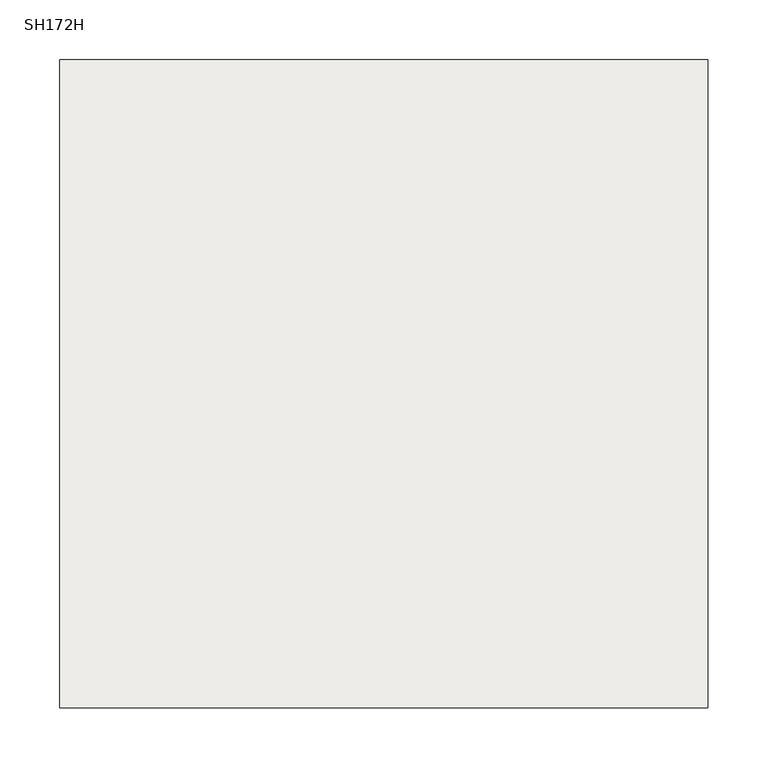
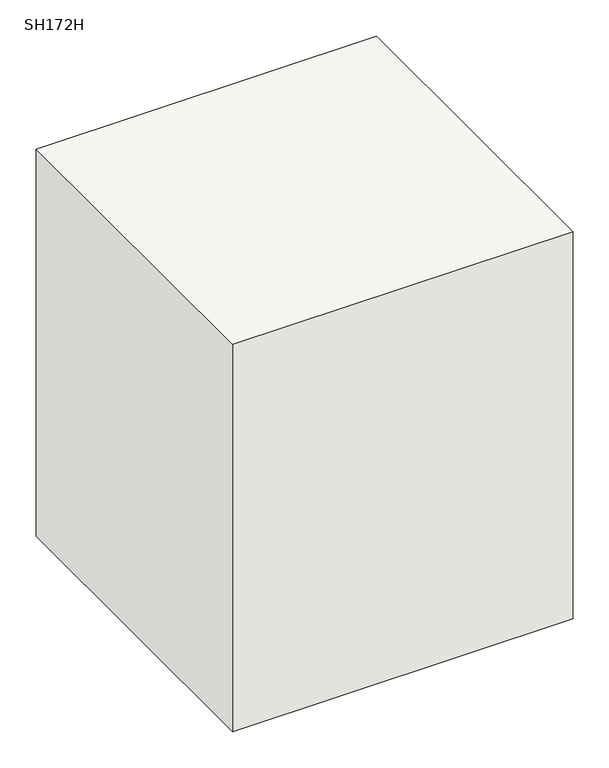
"""IFC4 building model written with IfcOpenShell, lengths in millimetres: slab geometry, 柱形_SH : SH172H."""

from ifc_helpers import new_model, si_unit, frame, origin, place, context, project, spatial, polyline, outline, extrude, source, transform, mapped, element, save


def sh172h_2c039d42(model_context):
    return source(origin(), model_context, "Body", "SweptSolid", [
        extrude(outline(polyline([(270.0, 270.0), (270.0, -270.0), (-270.0, -270.0), (-270.0, 270.0), (270.0, 270.0)])), frame((0.0, 0.0, -650.0), z_axis=(0.0, 0.0, 1.0), x_axis=(1.0, 0.0, 0.0)), (0.0, 0.0, 1.0), 650.0),
    ])


if __name__ == "__main__":
    model = new_model("IFC4")
    model_context = context("Model", 3, world=origin())
    ifc_project = project(units=[si_unit("LENGTHUNIT", "METRE", prefix="MILLI")], contexts=[model_context])
    site = spatial("IfcSite", under=ifc_project)
    building = spatial("IfcBuilding", under=site)
    placement = place(None, origin())
    sh172h_shape = sh172h_2c039d42(model_context)
    element("IfcSlab", 1, ObjectType="柱形_SH : SH172H", at=placement, inside=building, context=model_context, shape_type="MappedRepresentation", body=[
        mapped(sh172h_shape, transform((0.0, 0.0, 0.0), x_axis=(1.0, 0.0, 0.0), y_axis=(0.0, 1.0, 0.0), z_axis=(0.0, 0.0, 1.0))),
    ])
    save(model, "model.ifc")
